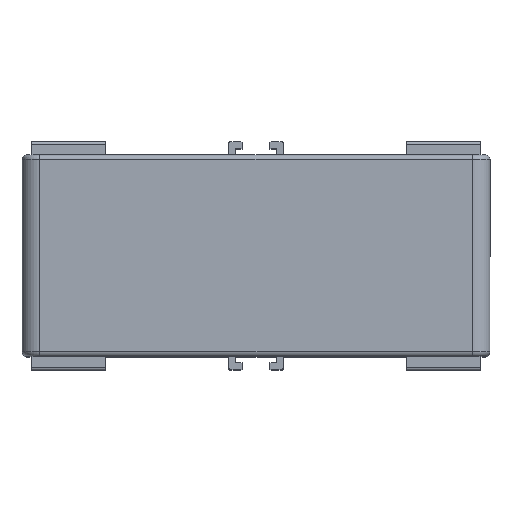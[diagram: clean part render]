
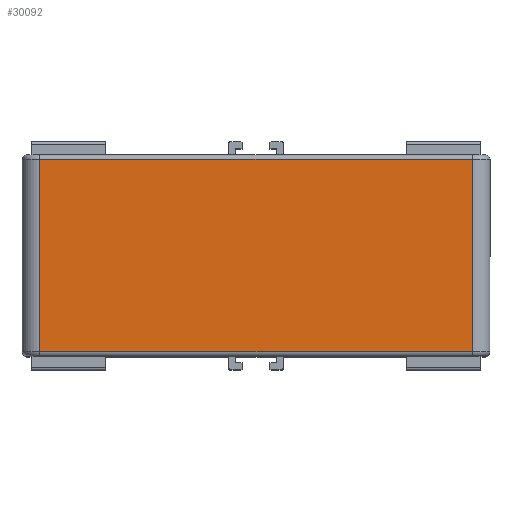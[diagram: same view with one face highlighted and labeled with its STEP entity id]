
A CAD part, top view. The second image highlights one B-rep face of the part: STEP entity #30092.
In plain terms, the highlighted planar face has unit normal (0, 0, 1).
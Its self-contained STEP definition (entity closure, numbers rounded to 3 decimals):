
#1757 = VERTEX_POINT ( 'NONE', #2735 ) ;
#2731 = EDGE_CURVE ( 'NONE', #4622, #7239, #7050, .T. ) ;
#2735 = CARTESIAN_POINT ( 'NONE',  ( -64.029, 110.514, 71.55 ) ) ;
#4622 = VERTEX_POINT ( 'NONE', #30674 ) ;
#4985 = CARTESIAN_POINT ( 'NONE',  ( -64.029, 67.714, 71.55 ) ) ;
#5297 = ORIENTED_EDGE ( 'NONE', *, *, #2731, .T. ) ;
#6024 = EDGE_CURVE ( 'NONE', #45521, #4622, #9536, .T. ) ;
#6472 = VECTOR ( 'NONE', #44705, 1000. ) ;
#7050 = LINE ( 'NONE', #32390, #6472 ) ;
#7239 = VERTEX_POINT ( 'NONE', #47341 ) ;
#9166 = CARTESIAN_POINT ( 'NONE',  ( 32.171, 67.714, 71.55 ) ) ;
#9536 = LINE ( 'NONE', #9166, #22196 ) ;
#11494 = DIRECTION ( 'NONE',  ( 0., -1., 0. ) ) ;
#11664 = ORIENTED_EDGE ( 'NONE', *, *, #12309, .T. ) ;
#12309 = EDGE_CURVE ( 'NONE', #1757, #45521, #44931, .T. ) ;
#13641 = AXIS2_PLACEMENT_3D ( 'NONE', #33035, #18065, #21269 ) ;
#16879 = DIRECTION ( 'NONE',  ( 1., 0., 0. ) ) ;
#17551 = PLANE ( 'NONE',  #13641 ) ;
#18065 = DIRECTION ( 'NONE',  ( 0., 0., -1. ) ) ;
#21269 = DIRECTION ( 'NONE',  ( 0., -1., 0. ) ) ;
#21486 = LINE ( 'NONE', #30726, #46911 ) ;
#22196 = VECTOR ( 'NONE', #16879, 1000. ) ;
#28310 = ORIENTED_EDGE ( 'NONE', *, *, #45937, .T. ) ;
#30092 = ADVANCED_FACE ( 'NONE', ( #38023 ), #17551, .F. ) ;
#30674 = CARTESIAN_POINT ( 'NONE',  ( 32.171, 67.714, 71.55 ) ) ;
#30726 = CARTESIAN_POINT ( 'NONE',  ( -64.029, 110.514, 71.55 ) ) ;
#32390 = CARTESIAN_POINT ( 'NONE',  ( 32.171, 89.114, 71.55 ) ) ;
#33035 = CARTESIAN_POINT ( 'NONE',  ( 36.171, 89.114, 71.55 ) ) ;
#34109 = EDGE_LOOP ( 'NONE', ( #5297, #28310, #11664, #39910 ) ) ;
#38023 = FACE_OUTER_BOUND ( 'NONE', #34109, .T. ) ;
#38989 = DIRECTION ( 'NONE',  ( -1., 0., 0. ) ) ;
#39910 = ORIENTED_EDGE ( 'NONE', *, *, #6024, .T. ) ;
#44705 = DIRECTION ( 'NONE',  ( 0., 1., 0. ) ) ;
#44931 = LINE ( 'NONE', #46145, #46136 ) ;
#45521 = VERTEX_POINT ( 'NONE', #4985 ) ;
#45937 = EDGE_CURVE ( 'NONE', #7239, #1757, #21486, .T. ) ;
#46136 = VECTOR ( 'NONE', #11494, 1000. ) ;
#46145 = CARTESIAN_POINT ( 'NONE',  ( -64.029, 89.114, 71.55 ) ) ;
#46911 = VECTOR ( 'NONE', #38989, 1000. ) ;
#47341 = CARTESIAN_POINT ( 'NONE',  ( 32.171, 110.514, 71.55 ) ) ;
